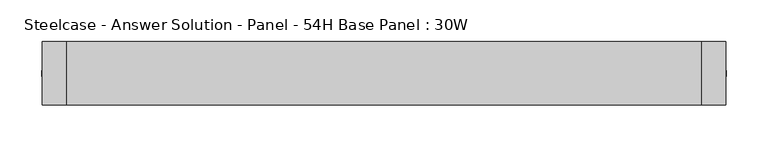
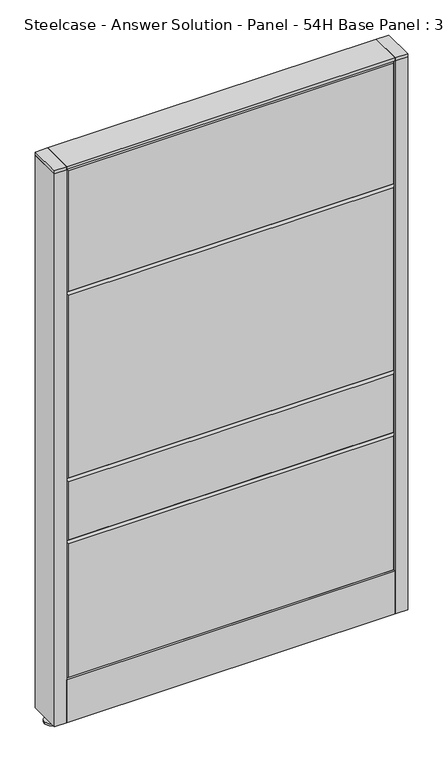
"""IFC4 building model written with IfcOpenShell, lengths in millimetres: furniture geometry, Steelcase - Answer Solution - Panel - 54H Base Panel : 30W."""

from ifc_helpers import new_model, si_unit, point, frame, frame_2d, origin, place, context, project, spatial, polyline, circle_curve, trimmed, segment, composite_curve, outline, extrude, faceted_brep, source, transform, mapped, element, save


def steelcase_answer_solution_panel_54h_base_panel_30w_7d8b9a09(model_context):
    return source(origin(), model_context, "Body", "SolidModel", [
        extrude(outline(composite_curve([segment(trimmed(circle_curve(frame_2d((395.224, 0.0320214)), 5.08), [point((400.304, 0.0320214))], [point((390.144, 0.0320214))], False, "CARTESIAN"), True, "CONTINUOUS"), segment(trimmed(circle_curve(frame_2d((395.224, 0.0320214)), 5.08), [point((390.144, 0.0320214))], [point((400.304, 0.0320214))], False, "CARTESIAN"), True, "CONTINUOUS")], self_intersect=False)), frame((0.0, 0.0, 5.0799671), z_axis=(0.0, 0.0, 1.0), x_axis=(1.0, 0.0, 0.0)), (0.0, 0.0, 1.0), 10.414),
        extrude(outline(composite_curve([segment(trimmed(circle_curve(frame_2d((395.224, 0.0320214)), 15.24), [point((410.464, 0.0320214))], [point((379.984, 0.0320214))], False, "CARTESIAN"), True, "CONTINUOUS"), segment(trimmed(circle_curve(frame_2d((395.224, 0.0320214)), 15.24), [point((379.984, 0.0320214))], [point((410.464, 0.0320214))], False, "CARTESIAN"), True, "CONTINUOUS")], self_intersect=False)), frame((0.0, 0.0, -3.29e-05), z_axis=(0.0, 0.0, 1.0), x_axis=(1.0, 0.0, 0.0)), (0.0, 0.0, 1.0), 5.08),
        extrude(outline(polyline([(409.575, 38.1320408), (409.575, -38.0679592), (381.0, -38.0679592), (381.0, 38.1320408), (409.575, 38.1320408)])), frame((0.0, 0.0, 1370.6348), z_axis=(0.0, 0.0, 1.0), x_axis=(1.0, 0.0, 0.0)), (0.0, 0.0, 1.0), 7.3151671),
        extrude(outline(polyline([(409.575, 38.1320408), (409.575, -38.0679592), (381.0, -38.0679592), (381.0, 38.1320408), (409.575, 38.1320408)])), frame((0.0, 0.0, 15.4939671), z_axis=(0.0, 0.0, 1.0), x_axis=(1.0, 0.0, 0.0)), (0.0, 0.0, 1.0), 1355.1408329),
        extrude(outline(composite_curve([segment(trimmed(circle_curve(frame_2d((-395.224, 0.0320214)), 5.08), [point((-400.304, 0.0320214))], [point((-390.144, 0.0320214))], False, "CARTESIAN"), True, "CONTINUOUS"), segment(trimmed(circle_curve(frame_2d((-395.224, 0.0320214)), 5.08), [point((-390.144, 0.0320214))], [point((-400.304, 0.0320214))], False, "CARTESIAN"), True, "CONTINUOUS")], self_intersect=False)), frame((0.0, 0.0, 5.0799671), z_axis=(0.0, 0.0, 1.0), x_axis=(1.0, 0.0, 0.0)), (0.0, 0.0, 1.0), 10.414),
        extrude(outline(composite_curve([segment(trimmed(circle_curve(frame_2d((-395.224, 0.0320214)), 15.24), [point((-410.464, 0.0320214))], [point((-379.984, 0.0320214))], False, "CARTESIAN"), True, "CONTINUOUS"), segment(trimmed(circle_curve(frame_2d((-395.224, 0.0320214)), 15.24), [point((-379.984, 0.0320214))], [point((-410.464, 0.0320214))], False, "CARTESIAN"), True, "CONTINUOUS")], self_intersect=False)), frame((0.0, 0.0, -3.29e-05), z_axis=(0.0, 0.0, 1.0), x_axis=(1.0, 0.0, 0.0)), (0.0, 0.0, 1.0), 5.08),
        extrude(outline(polyline([(-409.575, 38.1320408), (-381.0, 38.1320408), (-381.0, -38.0679592), (-409.575, -38.0679592), (-409.575, 38.1320408)])), frame((0.0, 0.0, 1370.6348), z_axis=(0.0, 0.0, 1.0), x_axis=(1.0, 0.0, 0.0)), (0.0, 0.0, 1.0), 7.3151671),
        extrude(outline(polyline([(-409.575, 38.1320408), (-381.0, 38.1320408), (-381.0, -38.0679592), (-409.575, -38.0679592), (-409.575, 38.1320408)])), frame((0.0, 0.0, 15.4939671), z_axis=(0.0, 0.0, 1.0), x_axis=(1.0, 0.0, 0.0)), (0.0, 0.0, 1.0), 1355.1408329),
        faceted_brep([(-376.174, 38.1635011, 1366.774), (376.174, 38.1635011, 1366.774), (376.174, 38.1635011, 1071.626), (-376.174, 38.1635011, 1071.626), (-381.0, 33.3375011, 1371.6), (-381.0, 33.3375011, 1066.8), (381.0, 33.3375011, 1066.8), (381.0, 33.3375011, 1371.6)], [[[0, 1, 2, 3]], [[4, 5, 6, 7]], [[4, 7, 1, 0]], [[7, 6, 2, 1]], [[6, 5, 3, 2]], [[5, 4, 0, 3]]]),
        faceted_brep([(-376.174, 38.1635011, 1061.974), (376.174, 38.1635011, 1061.974), (376.174, 38.1635011, 614.426), (-376.174, 38.1635011, 614.426), (-381.0, 33.3375011, 1066.8), (-381.0, 33.3375011, 609.6), (381.0, 33.3375011, 609.6), (381.0, 33.3375011, 1066.8)], [[[0, 1, 2, 3]], [[4, 5, 6, 7]], [[4, 7, 1, 0]], [[7, 6, 2, 1]], [[6, 5, 3, 2]], [[5, 4, 0, 3]]]),
        faceted_brep([(-376.174, 38.1635011, 604.774), (376.174, 38.1635011, 604.774), (376.174, 38.1635011, 462.026), (-376.174, 38.1635011, 462.026), (-381.0, 33.3375011, 609.6), (-381.0, 33.3375011, 457.2), (381.0, 33.3375011, 457.2), (381.0, 33.3375011, 609.6)], [[[0, 1, 2, 3]], [[4, 5, 6, 7]], [[4, 7, 1, 0]], [[7, 6, 2, 1]], [[6, 5, 3, 2]], [[5, 4, 0, 3]]]),
        faceted_brep([(-376.174, 38.1635011, 452.374), (376.174, 38.1635011, 452.374), (376.174, 38.1635011, 125.476), (-376.174, 38.1635011, 125.476), (-381.0, 33.3375011, 457.2), (-381.0, 33.3375011, 120.65), (381.0, 33.3375011, 120.65), (381.0, 33.3375011, 457.2)], [[[0, 1, 2, 3]], [[4, 5, 6, 7]], [[4, 7, 1, 0]], [[7, 6, 2, 1]], [[6, 5, 3, 2]], [[5, 4, 0, 3]]]),
        faceted_brep([(376.174, -38.1635011, 1366.774), (-376.174, -38.1635011, 1366.774), (-376.174, -38.1635011, 1071.626), (376.174, -38.1635011, 1071.626), (381.0, -33.3375011, 1371.6), (381.0, -33.3375011, 1066.8), (-381.0, -33.3375011, 1066.8), (-381.0, -33.3375011, 1371.6)], [[[0, 1, 2, 3]], [[4, 5, 6, 7]], [[4, 7, 1, 0]], [[7, 6, 2, 1]], [[6, 5, 3, 2]], [[5, 4, 0, 3]]]),
        faceted_brep([(376.174, -38.1635011, 1061.974), (-376.174, -38.1635011, 1061.974), (-376.174, -38.1635011, 614.426), (376.174, -38.1635011, 614.426), (381.0, -33.3375011, 1066.8), (381.0, -33.3375011, 609.6), (-381.0, -33.3375011, 609.6), (-381.0, -33.3375011, 1066.8)], [[[0, 1, 2, 3]], [[4, 5, 6, 7]], [[4, 7, 1, 0]], [[7, 6, 2, 1]], [[6, 5, 3, 2]], [[5, 4, 0, 3]]]),
        faceted_brep([(376.174, -38.1635011, 604.774), (-376.174, -38.1635011, 604.774), (-376.174, -38.1635011, 462.026), (376.174, -38.1635011, 462.026), (381.0, -33.3375011, 609.6), (381.0, -33.3375011, 457.2), (-381.0, -33.3375011, 457.2), (-381.0, -33.3375011, 609.6)], [[[0, 1, 2, 3]], [[4, 5, 6, 7]], [[4, 7, 1, 0]], [[7, 6, 2, 1]], [[6, 5, 3, 2]], [[5, 4, 0, 3]]]),
        faceted_brep([(376.174, -38.1635011, 452.374), (-376.174, -38.1635011, 452.374), (-376.174, -38.1635011, 125.476), (376.174, -38.1635011, 125.476), (381.0, -33.3375011, 457.2), (381.0, -33.3375011, 120.65), (-381.0, -33.3375011, 120.65), (-381.0, -33.3375011, 457.2)], [[[0, 1, 2, 3]], [[4, 5, 6, 7]], [[4, 7, 1, 0]], [[7, 6, 2, 1]], [[6, 5, 3, 2]], [[5, 4, 0, 3]]]),
        extrude(outline(polyline([(381.0, 38.1000194), (381.0, -38.1000194), (-381.0, -38.1000194), (-381.0, 38.1000194), (381.0, 38.1000194)])), frame((0.0, 0.0, 1371.6), z_axis=(0.0, 0.0, 1.0), x_axis=(1.0, 0.0, 0.0)), (0.0, 0.0, 1.0), 6.35),
        extrude(outline(polyline([(25.4000011, 119.8575157), (25.4000011, 120.65), (38.1000194, 120.65), (38.1000194, 15.494), (37.3075215, 15.494), (37.3075215, 119.8575157), (25.4000011, 119.8575157)])), frame((-381.0, 0.0, 0.0), z_axis=(1.0, 0.0, 0.0), x_axis=(0.0, 1.0, 0.0)), (0.0, 0.0, 1.0), 762.0),
        extrude(outline(polyline([(-25.4000011, 119.8575157), (-37.3075215, 119.8575157), (-37.3075215, 15.494), (-38.1000194, 15.494), (-38.1000194, 120.65), (-25.4000011, 120.65), (-25.4000011, 119.8575157)])), frame((-381.0, 0.0, 0.0), z_axis=(1.0, 0.0, 0.0), x_axis=(0.0, 1.0, 0.0)), (0.0, 0.0, 1.0), 762.0),
    ])


if __name__ == "__main__":
    model = new_model("IFC4")
    model_context = context("Model", 3, world=origin())
    ifc_project = project(units=[si_unit("LENGTHUNIT", "METRE", prefix="MILLI")], contexts=[model_context])
    site = spatial("IfcSite", under=ifc_project)
    building = spatial("IfcBuilding", under=site)
    placement = place(None, origin())
    steelcase_answer_solution_panel_54h_base_panel_30w_shape = steelcase_answer_solution_panel_54h_base_panel_30w_7d8b9a09(model_context)
    element("IfcFurniture", 1, ObjectType="Steelcase - Answer Solution - Panel - 54H Base Panel : 30W", at=placement, inside=building, context=model_context, shape_type="MappedRepresentation", body=[
        mapped(steelcase_answer_solution_panel_54h_base_panel_30w_shape, transform((0.0, 0.0, 0.0), x_axis=(1.0, 0.0, 0.0), y_axis=(0.0, 1.0, 0.0), z_axis=(0.0, 0.0, 1.0))),
    ])
    save(model, "model.ifc")
